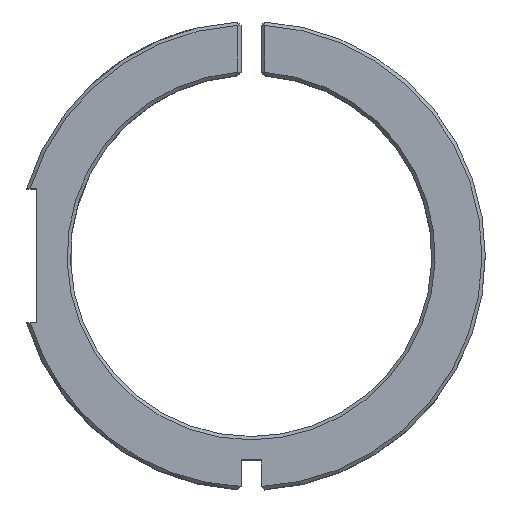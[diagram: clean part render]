
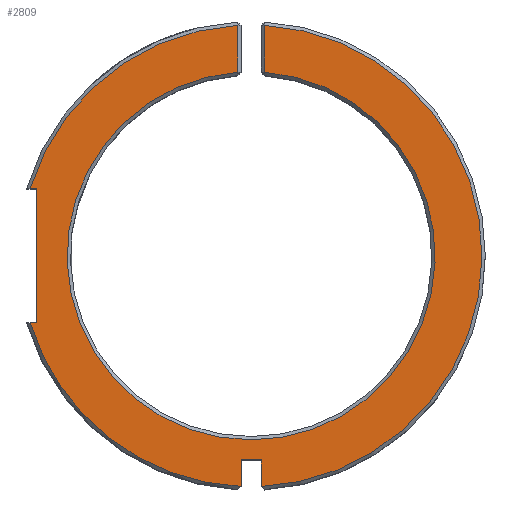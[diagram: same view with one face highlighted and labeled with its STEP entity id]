
A CAD part, top view. The second image highlights one B-rep face of the part: STEP entity #2809.
In plain terms, the highlighted planar face has unit normal (0, 0, 1).
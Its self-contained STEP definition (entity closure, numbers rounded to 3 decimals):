
#1416=CARTESIAN_POINT('',(33.5,-24.467,0.0));
#1417=VERTEX_POINT('',#1416);
#1424=CARTESIAN_POINT('',(33.5,-20.5,0.0));
#1425=VERTEX_POINT('',#1424);
#1426=CARTESIAN_POINT('',(33.5,-20.5,0.0));
#1427=DIRECTION('',(0.0,-1.0,0.0));
#1428=VECTOR('',#1427,3.967);
#1429=LINE('',#1426,#1428);
#1430=EDGE_CURVE('',#1425,#1417,#1429,.T.);
#1510=CARTESIAN_POINT('',(30.5,-24.467,0.0));
#1511=VERTEX_POINT('',#1510);
#1518=CARTESIAN_POINT('',(-1.019,0.0,0.0));
#1519=VERTEX_POINT('',#1518);
#1520=CARTESIAN_POINT('',(32.0,10.0,0.0));
#1521=DIRECTION('',(0.0,0.0,-1.0));
#1522=DIRECTION('',(0.958,0.286,0.0));
#1523=AXIS2_PLACEMENT_3D('',#1520,#1521,#1522);
#1524=CIRCLE('',#1523,34.5);
#1525=EDGE_CURVE('',#1511,#1519,#1524,.T.);
#1574=CARTESIAN_POINT('',(30.5,-20.5,0.0));
#1575=VERTEX_POINT('',#1574);
#1582=CARTESIAN_POINT('',(30.5,-24.467,0.0));
#1583=DIRECTION('',(0.0,1.0,0.0));
#1584=VECTOR('',#1583,3.967);
#1585=LINE('',#1582,#1584);
#1586=EDGE_CURVE('',#1511,#1575,#1585,.T.);
#1597=CARTESIAN_POINT('',(30.5,-20.5,0.0));
#1598=DIRECTION('',(1.0,0.0,0.0));
#1599=VECTOR('',#1598,3.);
#1600=LINE('',#1597,#1599);
#1601=EDGE_CURVE('',#1575,#1425,#1600,.T.);
#1628=CARTESIAN_POINT('',(34.0,44.442,0.0));
#1629=VERTEX_POINT('',#1628);
#1639=CARTESIAN_POINT('',(32.0,10.0,0.0));
#1640=DIRECTION('',(0.0,0.0,-1.0));
#1641=DIRECTION('',(0.958,0.286,0.0));
#1642=AXIS2_PLACEMENT_3D('',#1639,#1640,#1641);
#1643=CIRCLE('',#1642,34.5);
#1644=EDGE_CURVE('',#1629,#1417,#1643,.T.);
#2095=CARTESIAN_POINT('',(30.,37.427,0.0));
#2096=VERTEX_POINT('',#2095);
#2210=CARTESIAN_POINT('',(34.,37.427,0.0));
#2211=VERTEX_POINT('',#2210);
#2343=CARTESIAN_POINT('',(34.,37.427,0.0));
#2344=DIRECTION('',(0.0,1.0,0.0));
#2345=VECTOR('',#2344,7.015);
#2346=LINE('',#2343,#2345);
#2347=EDGE_CURVE('',#2211,#1629,#2346,.T.);
#2429=CARTESIAN_POINT('',(32.0,10.0,0.0));
#2430=DIRECTION('',(0.0,0.0,1.0));
#2431=DIRECTION('',(-1.0,0.0,0.0));
#2432=AXIS2_PLACEMENT_3D('',#2429,#2430,#2431);
#2433=CIRCLE('',#2432,27.5);
#2434=EDGE_CURVE('',#2096,#2211,#2433,.T.);
#2589=CARTESIAN_POINT('',(30.,44.442,0.0));
#2590=VERTEX_POINT('',#2589);
#2618=CARTESIAN_POINT('',(30.,44.442,0.0));
#2619=DIRECTION('',(0.0,-1.0,0.0));
#2620=VECTOR('',#2619,7.015);
#2621=LINE('',#2618,#2620);
#2622=EDGE_CURVE('',#2590,#2096,#2621,.T.);
#2666=CARTESIAN_POINT('',(-1.019,20.0,0.0));
#2667=VERTEX_POINT('',#2666);
#2681=CARTESIAN_POINT('',(32.0,10.0,0.0));
#2682=DIRECTION('',(0.0,0.0,-1.0));
#2683=DIRECTION('',(-0.043,0.999,0.0));
#2684=AXIS2_PLACEMENT_3D('',#2681,#2682,#2683);
#2685=CIRCLE('',#2684,34.5);
#2686=EDGE_CURVE('',#2667,#2590,#2685,.T.);
#2758=CARTESIAN_POINT('',(0.0,0.0,0.0));
#2759=VERTEX_POINT('',#2758);
#2760=CARTESIAN_POINT('',(0.0,0.0,0.0));
#2761=DIRECTION('',(-1.0,0.0,0.0));
#2762=VECTOR('',#2761,1.019);
#2763=LINE('',#2760,#2762);
#2764=EDGE_CURVE('',#2759,#1519,#2763,.T.);
#2778=CARTESIAN_POINT('',(30.959,12.527,0.0));
#2779=DIRECTION('',(0.0,0.0,1.0));
#2780=DIRECTION('',(1.0,0.0,0.0));
#2781=AXIS2_PLACEMENT_3D('',#2778,#2779,#2780);
#2782=PLANE('',#2781);
#2783=ORIENTED_EDGE('',*,*,#1430,.T.);
#2784=ORIENTED_EDGE('',*,*,#1644,.F.);
#2785=ORIENTED_EDGE('',*,*,#2347,.F.);
#2786=ORIENTED_EDGE('',*,*,#2434,.F.);
#2787=ORIENTED_EDGE('',*,*,#2622,.F.);
#2788=ORIENTED_EDGE('',*,*,#2686,.F.);
#2789=CARTESIAN_POINT('',(0.0,20.0,0.0));
#2790=VERTEX_POINT('',#2789);
#2791=CARTESIAN_POINT('',(-1.019,20.0,0.0));
#2792=DIRECTION('',(1.0,0.0,0.0));
#2793=VECTOR('',#2792,1.019);
#2794=LINE('',#2791,#2793);
#2795=EDGE_CURVE('',#2667,#2790,#2794,.T.);
#2796=ORIENTED_EDGE('',*,*,#2795,.T.);
#2797=CARTESIAN_POINT('',(0.0,20.0,0.0));
#2798=DIRECTION('',(0.0,-1.0,0.0));
#2799=VECTOR('',#2798,20.0);
#2800=LINE('',#2797,#2799);
#2801=EDGE_CURVE('',#2790,#2759,#2800,.T.);
#2802=ORIENTED_EDGE('',*,*,#2801,.T.);
#2803=ORIENTED_EDGE('',*,*,#2764,.T.);
#2804=ORIENTED_EDGE('',*,*,#1525,.F.);
#2805=ORIENTED_EDGE('',*,*,#1586,.T.);
#2806=ORIENTED_EDGE('',*,*,#1601,.T.);
#2807=EDGE_LOOP('',(#2783,#2784,#2785,#2786,#2787,#2788,#2796,#2802,#2803,#2804,#2805,#2806));
#2808=FACE_OUTER_BOUND('',#2807,.T.);
#2809=ADVANCED_FACE('',(#2808),#2782,.T.);
